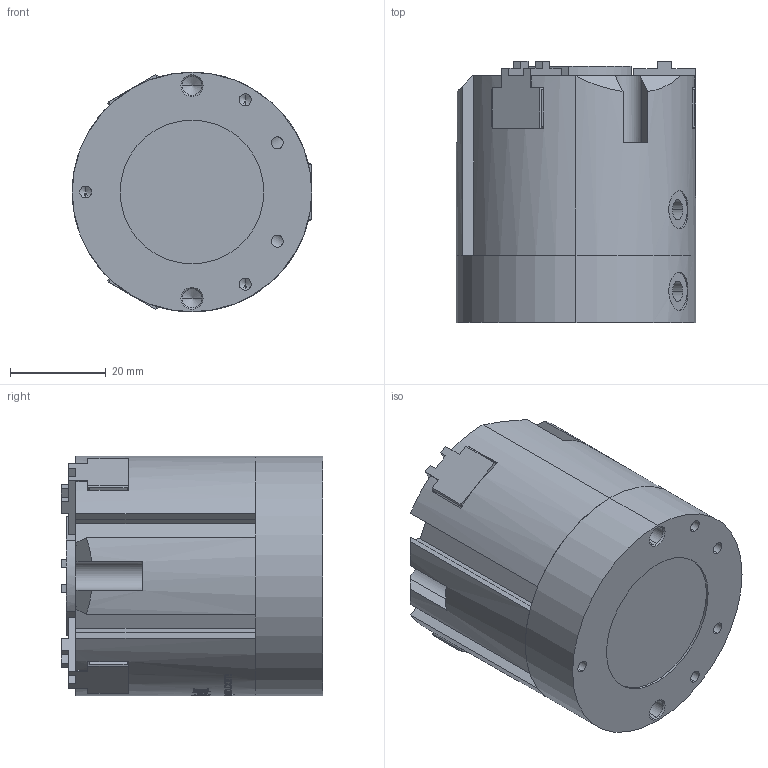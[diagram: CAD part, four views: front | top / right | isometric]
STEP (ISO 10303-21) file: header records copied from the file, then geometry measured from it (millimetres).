
FILE_DESCRIPTION (( 'STEP AP203' ), '1' );
FILE_NAME ('MAC3-50-MC&MA原始檔-組合-W106.04.13.STEP', '2017-04-13T08:05:01', ( 'DanyaoCAD' ), ( '' ), 'SwSTEP 2.0', 'SolidWorks 2016', '' );
FILE_SCHEMA (( 'CONFIG_CONTROL_DESIGN' ));
Length unit declared in the file: millimetre
Products named in the file (6): Coperchio; Spintore; MAC3-50-MC&MA原始檔-組合-W106.04.13; Griffa; Corpo; Fondello
Assembly tree (7 placements, depth 2):
  MAC3-50-MC&MA原始檔-組合-W106.04.13
    Coperchio
    Spintore
    Griffa  x3
    Corpo
    Fondello
Bounding box: 50 x 54.5 x 50 mm (x, y, z)
Volume: 93760.3 mm3; surface area: 28018.8 mm2
Topology: 7 solids, 7 shells, 1126 faces, 3127 edges, 2048 vertices
Faces by surface type: bspline 665, plane 262, cylinder 147, cone 52
Entity records: 73729 total; most frequent: CARTESIAN_POINT 52144, ORIENTED_EDGE 5766, EDGE_CURVE 2883, B_SPLINE_CURVE_WITH_KNOTS 2049, VERTEX_POINT 1912, DIRECTION 1896, EDGE_LOOP 1135, ADVANCED_FACE 1048
